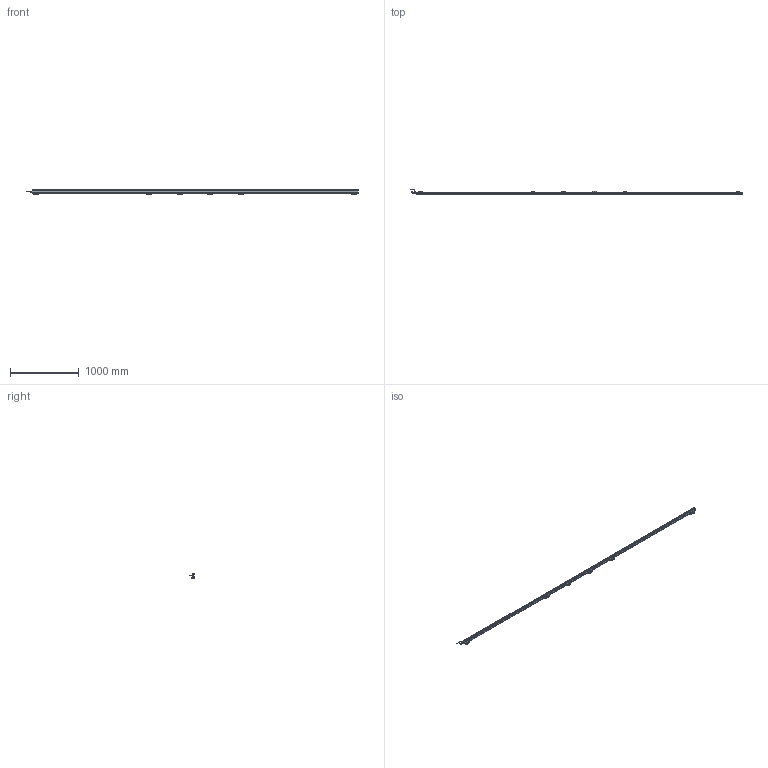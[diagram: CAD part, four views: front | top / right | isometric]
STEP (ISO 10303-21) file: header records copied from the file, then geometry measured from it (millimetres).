
FILE_DESCRIPTION(('Bauteilbeschreibung','HiCAD-Model','HiCAD-STEP-TRANSLATION','Bauteilbeschreibung'),'2;1');
FILE_NAME('PERFORMAXIQEASY_4650-4740_3D.STP','2014-03-05T13:46:53+00:00',('Konstrukteur'),('Konstrukteur Firma GmbH'),' HiCAD 2011, Step 1600.0 ','HiCAD 2011','confidential');
FILE_SCHEMA(('AUTOMOTIVE_DESIGN { 1 2 10303 214 0 1 1 1 }'));
Products named in the file (56): PERFORMAXIQEASY_4650_4740_3D; A_PERFORMAX IQ EASY 4650_4740; A_PERFORMAX IQ EASY SPEED; A_CAP DE; A_CAP CE_5; LED_2C_3MM; LED02C03MM; A519020315_CONNECTOR APPLIANCE; A_INSERT; A_CONTACTS; A_HOUSING; A_PROFILE; A_POTTING; PIN; PIN0; A532000100_BRACKET BARS_ MOUNT; A_SIDE PIECE; A0SIDE0PIECE; A_BRACKET SMALL; A_SLIDE PIECE; A5320001000BRACKET0BARS00MOUNT; A0SIDE0PIECE0; A0SIDE0PIECE1; A0BRACKET0SMALL; A0SLIDE0PIECE; A5320001000BRACKET0BARS00MOUNT0; A0SIDE0PIECE2; A0SIDE0PIECE3; A0BRACKET0SMALL0; A0SLIDE0PIECE0; A0SIDE0PIECE4; A0SIDE0PIECE5; A0BRACKET0SMALL1; A0SLIDE0PIECE1; A0SIDE0PIECE6; A0SIDE0PIECE7; A0BRACKET0SMALL2; A0SLIDE0PIECE2; A0SIDE0PIECE8; A0SIDE0PIECE9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
Assembly tree (55 placements, depth 5):
  PERFORMAXIQEASY_4650_4740_3D
    A_PERFORMAX IQ EASY 4650_4740
      A_PERFORMAX IQ EASY SPEED
        A_CAP DE
        A_CAP CE_5
        LED_2C_3MM
        LED02C03MM
        A519020315_CONNECTOR APPLIANCE
          A_INSERT
          A_CONTACTS
          A_HOUSING
        A_PROFILE
        A_POTTING
        PIN
        PIN0
      A532000100_BRACKET BARS_ MOUNT
        A_SIDE PIECE
        A0SIDE0PIECE
        A_BRACKET SMALL
        A_SLIDE PIECE
      A5320001000BRACKET0BARS00MOUNT
        A0SIDE0PIECE0
        A0SIDE0PIECE1
        A0BRACKET0SMALL
        A0SLIDE0PIECE
      A5320001000BRACKET0BARS00MOUNT0
        A0SIDE0PIECE2
        A0SIDE0PIECE3
        A0BRACKET0SMALL0
        A0SLIDE0PIECE0
      A5320001000BRACKET0BARS00MOUNT0
        A0SIDE0PIECE4
        A0SIDE0PIECE5
        A0BRACKET0SMALL1
        A0SLIDE0PIECE1
      A5320001000BRACKET0BARS00MOUNT0
        A0SIDE0PIECE6
        A0SIDE0PIECE7
        A0BRACKET0SMALL2
        A0SLIDE0PIECE2
      A5320001000BRACKET0BARS00MOUNT0
        A0SIDE0PIECE8
        A0SIDE0PIECE9
        A0BRACKET0SMALL3
        A0SLIDE0PIECE3
      A_CONNECTOR STRAIGHT
        EXTRUDED SOLID_0
        DRAAD GEBOGEN
        REVOLVED SOLID_1
        REVOLVED SOLID_3
      A_CONNECTOR ANGLED
        REVOLVED0SOLID01
        EXTRUDED0SOLID00
        C_EDGE SWEEP_0
        REVOLVED SOLID_2
        REVOLVED0SOLID03
Bounding box: 4817.89 x 84.24 x 63.13 mm (x, y, z)
Volume: 4854004.3 mm3; surface area: 1156106.1 mm2
Topology: 49 solids, 49 shells, 4983 faces, 12800 edges, 7585 vertices
Faces by surface type: cylinder 2137, plane 1879, sphere 332, torus 299, bspline 248, cone 88
Full cylindrical faces by diameter (mm): 0.8 x10, 1 x5, 2.387 x12, 3 x27, 3.1 x1, 4.2 x2, 5 x4, 5.5 x30, 8 x2, 8.2 x1, 8.4 x2, 8.945 x1, 9 x2, 10.2 x1, 10.5 x3, 11 x1, 12 x3, 12.8 x1, 13.8 x4, 14.5 x3
Entity records: 231105 total; most frequent: CARTESIAN_POINT 54548, DIRECTION 24777, ORIENTED_EDGE 24320, EDGE_CURVE 12160, COLOUR_RGB 11541, PRESENTATION_STYLE_ASSIGNMENT 11541, OVER_RIDING_STYLED_ITEM 11497, CURVE_STYLE 11492
